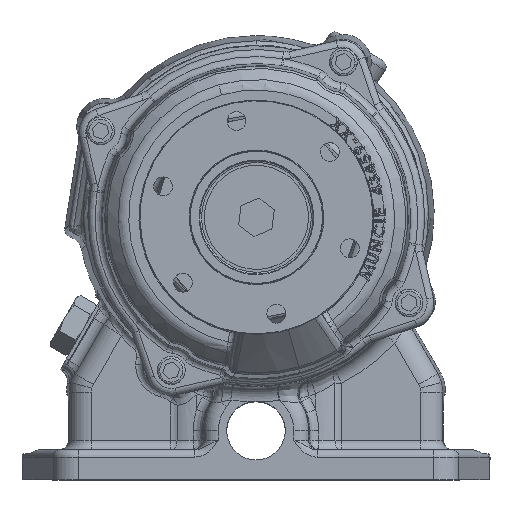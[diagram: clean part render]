
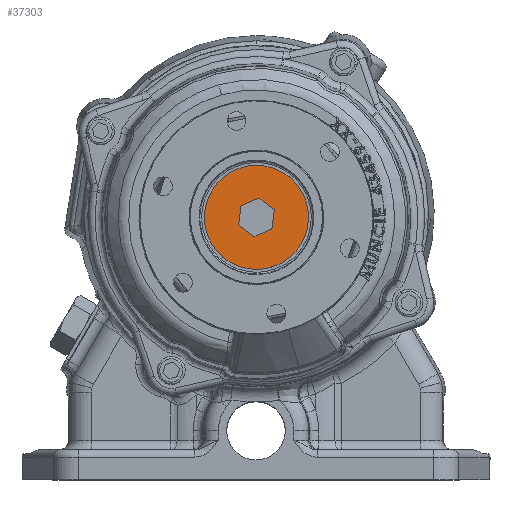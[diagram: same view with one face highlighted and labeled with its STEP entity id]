
A CAD part, top view. The second image highlights one B-rep face of the part: STEP entity #37303.
In plain terms, the highlighted planar face has unit normal (0, 0, 1).
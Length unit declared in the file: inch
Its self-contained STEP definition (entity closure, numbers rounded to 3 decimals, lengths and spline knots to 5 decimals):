
#6063 = VERTEX_POINT ( 'NONE', #155225 ) ;
#21222 = EDGE_CURVE ( 'NONE', #6063, #29867, #180504, .T. ) ;
#24591 = DIRECTION ( 'NONE',  ( 0.166, -0.986, 0. ) ) ;
#29469 = AXIS2_PLACEMENT_3D ( 'NONE', #156722, #83323, #24591 ) ;
#29867 = VERTEX_POINT ( 'NONE', #170166 ) ;
#31615 = CARTESIAN_POINT ( 'NONE',  ( 0.87014, 3.7202, 8.5085 ) ) ;
#36616 = CIRCLE ( 'NONE', #167978, 0.875 ) ;
#37303 = ADVANCED_FACE ( 'NONE', ( #39265, #127392 ), #188997, .F. ) ;
#38168 = ORIENTED_EDGE ( 'NONE', *, *, #192560, .F. ) ;
#39265 = FACE_OUTER_BOUND ( 'NONE', #99527, .T. ) ;
#48778 = CARTESIAN_POINT ( 'NONE',  ( 0.00733, 3.57468, 8.5085 ) ) ;
#52655 = DIRECTION ( 'NONE',  ( 0.986, 0.166, 0. ) ) ;
#60235 = AXIS2_PLACEMENT_3D ( 'NONE', #103339, #164970, #62139 ) ;
#62139 = DIRECTION ( 'NONE',  ( 0.986, 0.166, 0. ) ) ;
#65842 = ORIENTED_EDGE ( 'NONE', *, *, #133155, .T. ) ;
#66435 = AXIS2_PLACEMENT_3D ( 'NONE', #48778, #95751, #52655 ) ;
#72585 = EDGE_LOOP ( 'NONE', ( #65842, #124127 ) ) ;
#78975 = CIRCLE ( 'NONE', #60235, 0.875 ) ;
#83323 = DIRECTION ( 'NONE',  ( 0., 0., -1. ) ) ;
#85356 = CIRCLE ( 'NONE', #66435, 0.203 ) ;
#88577 = CARTESIAN_POINT ( 'NONE',  ( 0.00733, 3.57468, 8.5085 ) ) ;
#89931 = CARTESIAN_POINT ( 'NONE',  ( 0.00733, 3.57468, 8.5085 ) ) ;
#95751 = DIRECTION ( 'NONE',  ( 0., 0., -1. ) ) ;
#96138 = AXIS2_PLACEMENT_3D ( 'NONE', #89931, #170111, #182851 ) ;
#99527 = EDGE_LOOP ( 'NONE', ( #38168, #155855 ) ) ;
#103339 = CARTESIAN_POINT ( 'NONE',  ( 0.00733, 3.57468, 8.5085 ) ) ;
#124127 = ORIENTED_EDGE ( 'NONE', *, *, #21222, .T. ) ;
#127392 = FACE_BOUND ( 'NONE', #72585, .T. ) ;
#133155 = EDGE_CURVE ( 'NONE', #29867, #6063, #85356, .T. ) ;
#142879 = VERTEX_POINT ( 'NONE', #31615 ) ;
#148289 = DIRECTION ( 'NONE',  ( 0.986, 0.166, 0. ) ) ;
#155225 = CARTESIAN_POINT ( 'NONE',  ( 0.2075, 3.60844, 8.5085 ) ) ;
#155855 = ORIENTED_EDGE ( 'NONE', *, *, #180599, .F. ) ;
#156722 = CARTESIAN_POINT ( 'NONE',  ( 0.00733, 3.57468, 8.5085 ) ) ;
#164970 = DIRECTION ( 'NONE',  ( 0., 0., -1. ) ) ;
#166585 = CARTESIAN_POINT ( 'NONE',  ( -0.85549, 3.42916, 8.5085 ) ) ;
#167978 = AXIS2_PLACEMENT_3D ( 'NONE', #88577, #190424, #148289 ) ;
#170111 = DIRECTION ( 'NONE',  ( 0., 0., -1. ) ) ;
#170166 = CARTESIAN_POINT ( 'NONE',  ( -0.19285, 3.54092, 8.5085 ) ) ;
#180504 = CIRCLE ( 'NONE', #96138, 0.203 ) ;
#180599 = EDGE_CURVE ( 'NONE', #142879, #191467, #36616, .T. ) ;
#182851 = DIRECTION ( 'NONE',  ( 0.986, 0.166, 0. ) ) ;
#188997 = PLANE ( 'NONE',  #29469 ) ;
#190424 = DIRECTION ( 'NONE',  ( 0., 0., -1. ) ) ;
#191467 = VERTEX_POINT ( 'NONE', #166585 ) ;
#192560 = EDGE_CURVE ( 'NONE', #191467, #142879, #78975, .T. ) ;
